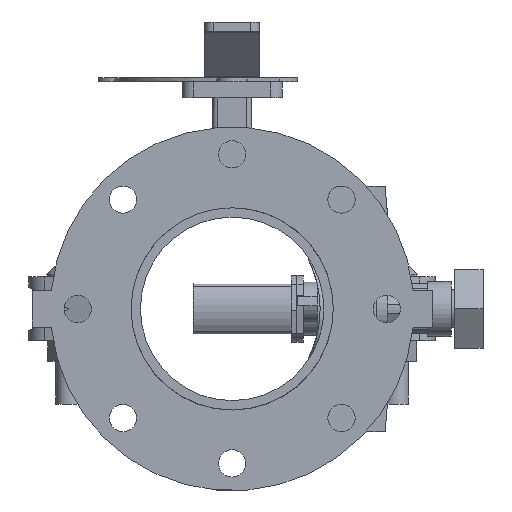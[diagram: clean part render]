
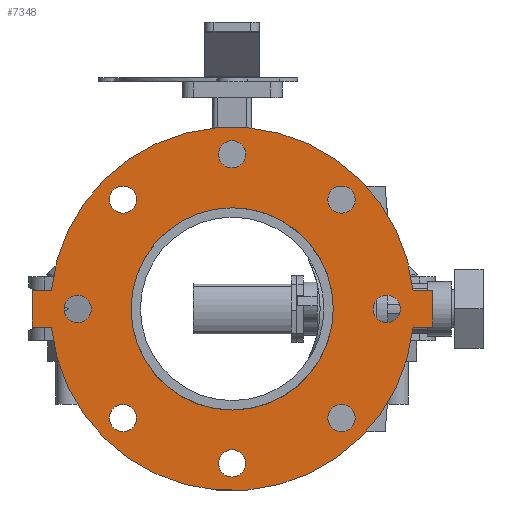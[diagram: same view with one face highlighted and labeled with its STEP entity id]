
A CAD part, front view. The second image highlights one B-rep face of the part: STEP entity #7348.
In plain terms, the highlighted planar face has unit normal (0, -1, 0) as drawn and (0, 0, -1) by its records, which use the part's own axes.
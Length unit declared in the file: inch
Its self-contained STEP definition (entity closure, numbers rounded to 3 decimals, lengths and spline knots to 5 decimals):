
#158=FACE_BOUND('',#907,.T.);
#159=FACE_BOUND('',#908,.T.);
#160=FACE_BOUND('',#909,.T.);
#161=FACE_BOUND('',#910,.T.);
#162=FACE_BOUND('',#911,.T.);
#163=FACE_BOUND('',#912,.T.);
#164=FACE_BOUND('',#913,.T.);
#165=FACE_BOUND('',#914,.T.);
#166=FACE_BOUND('',#915,.T.);
#253=PLANE('',#7944);
#499=FACE_OUTER_BOUND('',#906,.T.);
#906=EDGE_LOOP('',(#4723,#4724,#4725,#4726,#4727,#4728,#4729,#4730));
#907=EDGE_LOOP('',(#4731));
#908=EDGE_LOOP('',(#4732));
#909=EDGE_LOOP('',(#4733));
#910=EDGE_LOOP('',(#4734));
#911=EDGE_LOOP('',(#4735));
#912=EDGE_LOOP('',(#4736));
#913=EDGE_LOOP('',(#4737));
#914=EDGE_LOOP('',(#4738));
#915=EDGE_LOOP('',(#4739,#4740));
#1408=LINE('',#11109,#1976);
#1409=LINE('',#11111,#1977);
#1410=LINE('',#11113,#1978);
#1411=LINE('',#11117,#1979);
#1412=LINE('',#11119,#1980);
#1413=LINE('',#11120,#1981);
#1976=VECTOR('',#8838,0.3937);
#1977=VECTOR('',#8839,0.3937);
#1978=VECTOR('',#8840,0.3937);
#1979=VECTOR('',#8843,0.3937);
#1980=VECTOR('',#8844,0.3937);
#1981=VECTOR('',#8845,0.3937);
#2537=CIRCLE('',#7922,0.375);
#2539=CIRCLE('',#7925,0.375);
#2541=CIRCLE('',#7928,0.375);
#2543=CIRCLE('',#7931,0.375);
#2545=CIRCLE('',#7934,0.375);
#2547=CIRCLE('',#7937,0.375);
#2549=CIRCLE('',#7940,0.375);
#2551=CIRCLE('',#7943,0.375);
#2552=CIRCLE('',#7945,5.);
#2553=CIRCLE('',#7946,5.);
#2554=CIRCLE('',#7947,2.7815);
#2555=CIRCLE('',#7948,2.7815);
#2946=VERTEX_POINT('',#11059);
#2948=VERTEX_POINT('',#11065);
#2950=VERTEX_POINT('',#11071);
#2952=VERTEX_POINT('',#11077);
#2954=VERTEX_POINT('',#11083);
#2956=VERTEX_POINT('',#11089);
#2958=VERTEX_POINT('',#11095);
#2960=VERTEX_POINT('',#11101);
#2961=VERTEX_POINT('',#11105);
#2962=VERTEX_POINT('',#11106);
#2963=VERTEX_POINT('',#11108);
#2964=VERTEX_POINT('',#11110);
#2965=VERTEX_POINT('',#11112);
#2966=VERTEX_POINT('',#11114);
#2967=VERTEX_POINT('',#11116);
#2968=VERTEX_POINT('',#11118);
#2969=VERTEX_POINT('',#11121);
#2970=VERTEX_POINT('',#11122);
#3648=EDGE_CURVE('',#2946,#2946,#2537,.T.);
#3651=EDGE_CURVE('',#2948,#2948,#2539,.T.);
#3654=EDGE_CURVE('',#2950,#2950,#2541,.T.);
#3657=EDGE_CURVE('',#2952,#2952,#2543,.T.);
#3660=EDGE_CURVE('',#2954,#2954,#2545,.T.);
#3663=EDGE_CURVE('',#2956,#2956,#2547,.T.);
#3666=EDGE_CURVE('',#2958,#2958,#2549,.T.);
#3669=EDGE_CURVE('',#2960,#2960,#2551,.T.);
#3670=EDGE_CURVE('',#2961,#2962,#2552,.T.);
#3671=EDGE_CURVE('',#2962,#2963,#1408,.T.);
#3672=EDGE_CURVE('',#2963,#2964,#1409,.T.);
#3673=EDGE_CURVE('',#2964,#2965,#1410,.T.);
#3674=EDGE_CURVE('',#2965,#2966,#2553,.T.);
#3675=EDGE_CURVE('',#2966,#2967,#1411,.T.);
#3676=EDGE_CURVE('',#2967,#2968,#1412,.T.);
#3677=EDGE_CURVE('',#2968,#2961,#1413,.T.);
#3678=EDGE_CURVE('',#2969,#2970,#2554,.T.);
#3679=EDGE_CURVE('',#2970,#2969,#2555,.T.);
#4723=ORIENTED_EDGE('',*,*,#3670,.T.);
#4724=ORIENTED_EDGE('',*,*,#3671,.T.);
#4725=ORIENTED_EDGE('',*,*,#3672,.T.);
#4726=ORIENTED_EDGE('',*,*,#3673,.T.);
#4727=ORIENTED_EDGE('',*,*,#3674,.T.);
#4728=ORIENTED_EDGE('',*,*,#3675,.T.);
#4729=ORIENTED_EDGE('',*,*,#3676,.T.);
#4730=ORIENTED_EDGE('',*,*,#3677,.T.);
#4731=ORIENTED_EDGE('',*,*,#3648,.T.);
#4732=ORIENTED_EDGE('',*,*,#3651,.T.);
#4733=ORIENTED_EDGE('',*,*,#3654,.T.);
#4734=ORIENTED_EDGE('',*,*,#3657,.T.);
#4735=ORIENTED_EDGE('',*,*,#3660,.T.);
#4736=ORIENTED_EDGE('',*,*,#3663,.T.);
#4737=ORIENTED_EDGE('',*,*,#3666,.T.);
#4738=ORIENTED_EDGE('',*,*,#3669,.T.);
#4739=ORIENTED_EDGE('',*,*,#3678,.T.);
#4740=ORIENTED_EDGE('',*,*,#3679,.T.);
#7348=ADVANCED_FACE('',(#499,#158,#159,#160,#161,#162,#163,#164,#165,#166),
#253,.T.);
#7922=AXIS2_PLACEMENT_3D('',#11061,#8783,#8784);
#7925=AXIS2_PLACEMENT_3D('',#11067,#8790,#8791);
#7928=AXIS2_PLACEMENT_3D('',#11073,#8797,#8798);
#7931=AXIS2_PLACEMENT_3D('',#11079,#8804,#8805);
#7934=AXIS2_PLACEMENT_3D('',#11085,#8811,#8812);
#7937=AXIS2_PLACEMENT_3D('',#11091,#8818,#8819);
#7940=AXIS2_PLACEMENT_3D('',#11097,#8825,#8826);
#7943=AXIS2_PLACEMENT_3D('',#11103,#8832,#8833);
#7944=AXIS2_PLACEMENT_3D('',#11104,#8834,#8835);
#7945=AXIS2_PLACEMENT_3D('',#11107,#8836,#8837);
#7946=AXIS2_PLACEMENT_3D('',#11115,#8841,#8842);
#7947=AXIS2_PLACEMENT_3D('',#11123,#8846,#8847);
#7948=AXIS2_PLACEMENT_3D('',#11124,#8848,#8849);
#8783=DIRECTION('center_axis',(0.,0.,1.));
#8784=DIRECTION('ref_axis',(-0.707,0.707,0.));
#8790=DIRECTION('center_axis',(0.,0.,1.));
#8791=DIRECTION('ref_axis',(0.,1.,0.));
#8797=DIRECTION('center_axis',(0.,0.,1.));
#8798=DIRECTION('ref_axis',(0.707,0.707,0.));
#8804=DIRECTION('center_axis',(0.,0.,1.));
#8805=DIRECTION('ref_axis',(1.,0.,0.));
#8811=DIRECTION('center_axis',(0.,0.,1.));
#8812=DIRECTION('ref_axis',(0.707,-0.707,0.));
#8818=DIRECTION('center_axis',(0.,0.,1.));
#8819=DIRECTION('ref_axis',(0.,-1.,0.));
#8825=DIRECTION('center_axis',(0.,0.,1.));
#8826=DIRECTION('ref_axis',(-0.707,-0.707,0.));
#8832=DIRECTION('center_axis',(0.,0.,1.));
#8833=DIRECTION('ref_axis',(-1.,0.,0.));
#8834=DIRECTION('center_axis',(0.,0.,-1.));
#8835=DIRECTION('ref_axis',(-1.,0.,0.));
#8836=DIRECTION('center_axis',(0.,0.,-1.));
#8837=DIRECTION('ref_axis',(-1.,0.,0.));
#8838=DIRECTION('',(0.,1.,0.));
#8839=DIRECTION('',(1.,0.,0.));
#8840=DIRECTION('',(0.,-1.,0.));
#8841=DIRECTION('center_axis',(0.,0.,-1.));
#8842=DIRECTION('ref_axis',(-1.,0.,0.));
#8843=DIRECTION('',(0.,-1.,0.));
#8844=DIRECTION('',(-1.,0.,0.));
#8845=DIRECTION('',(0.,1.,0.));
#8846=DIRECTION('center_axis',(0.,0.,1.));
#8847=DIRECTION('ref_axis',(-1.,0.,0.));
#8848=DIRECTION('center_axis',(0.,0.,1.));
#8849=DIRECTION('ref_axis',(-1.,0.,0.));
#11059=CARTESIAN_POINT('',(-2.74004,2.74004,-0.5));
#11061=CARTESIAN_POINT('Origin',(-3.0052,3.0052,-0.5));
#11065=CARTESIAN_POINT('',(0.,3.875,-0.5));
#11067=CARTESIAN_POINT('Origin',(0.,4.25,-0.5));
#11071=CARTESIAN_POINT('',(2.74004,2.74004,-0.5));
#11073=CARTESIAN_POINT('Origin',(3.0052,3.0052,-0.5));
#11077=CARTESIAN_POINT('',(3.875,0.,-0.5));
#11079=CARTESIAN_POINT('Origin',(4.25,0.,-0.5));
#11083=CARTESIAN_POINT('',(2.74004,-2.74004,-0.5));
#11085=CARTESIAN_POINT('Origin',(3.0052,-3.0052,-0.5));
#11089=CARTESIAN_POINT('',(0.,-3.875,-0.5));
#11091=CARTESIAN_POINT('Origin',(0.,-4.25,-0.5));
#11095=CARTESIAN_POINT('',(-2.74004,-2.74004,-0.5));
#11097=CARTESIAN_POINT('Origin',(-3.0052,-3.0052,-0.5));
#11101=CARTESIAN_POINT('',(-3.875,0.,-0.5));
#11103=CARTESIAN_POINT('Origin',(-4.25,0.,-0.5));
#11104=CARTESIAN_POINT('Origin',(0.,0.,-0.5));
#11105=CARTESIAN_POINT('',(-0.5,-4.97494,-0.5));
#11106=CARTESIAN_POINT('',(-0.5,4.97494,-0.5));
#11107=CARTESIAN_POINT('Origin',(0.,0.,-0.5));
#11108=CARTESIAN_POINT('',(-0.5,5.5,-0.5));
#11109=CARTESIAN_POINT('',(-0.5,-5.5,-0.5));
#11110=CARTESIAN_POINT('',(0.5,5.5,-0.5));
#11111=CARTESIAN_POINT('',(-0.5,5.5,-0.5));
#11112=CARTESIAN_POINT('',(0.5,4.97494,-0.5));
#11113=CARTESIAN_POINT('',(0.5,5.5,-0.5));
#11114=CARTESIAN_POINT('',(0.5,-4.97494,-0.5));
#11115=CARTESIAN_POINT('Origin',(0.,0.,-0.5));
#11116=CARTESIAN_POINT('',(0.5,-5.5,-0.5));
#11117=CARTESIAN_POINT('',(0.5,5.5,-0.5));
#11118=CARTESIAN_POINT('',(-0.5,-5.5,-0.5));
#11119=CARTESIAN_POINT('',(0.5,-5.5,-0.5));
#11120=CARTESIAN_POINT('',(-0.5,-5.5,-0.5));
#11121=CARTESIAN_POINT('',(0.5,2.73619,-0.5));
#11122=CARTESIAN_POINT('',(2.7815,0.,-0.5));
#11123=CARTESIAN_POINT('Origin',(0.,0.,-0.5));
#11124=CARTESIAN_POINT('Origin',(0.,0.,-0.5));
